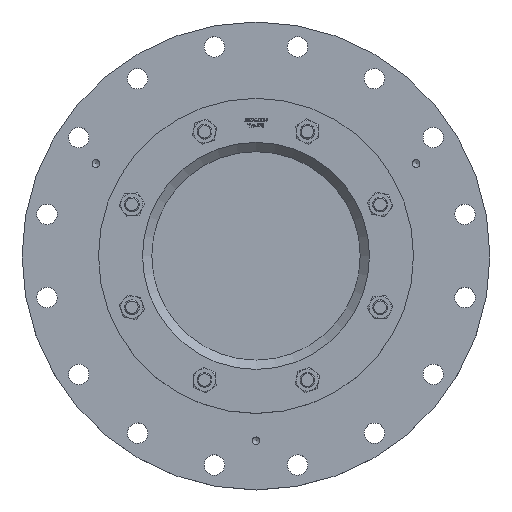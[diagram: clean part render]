
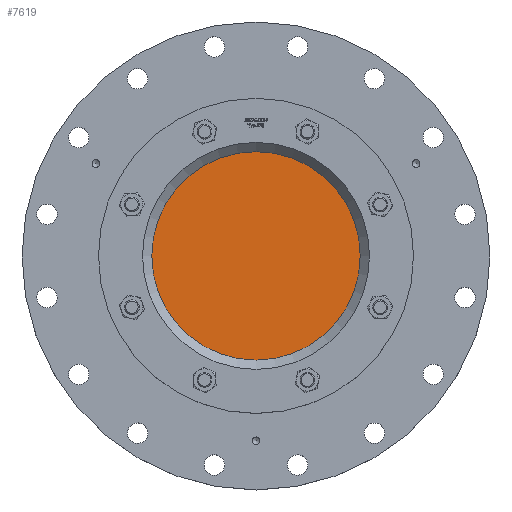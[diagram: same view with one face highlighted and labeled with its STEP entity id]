
A CAD part, top view. The second image highlights one B-rep face of the part: STEP entity #7619.
In plain terms, the highlighted planar face has unit normal (0, 0, 1).
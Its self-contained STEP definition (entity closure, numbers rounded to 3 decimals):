
#2243=FACE_OUTER_BOUND('',#2696,.T.);
#2696=EDGE_LOOP('',(#5262));
#3285=CIRCLE('',#8075,112.5);
#3467=VERTEX_POINT('',#10148);
#4183=EDGE_CURVE('',#3467,#3467,#3285,.T.);
#5262=ORIENTED_EDGE('',*,*,#4183,.F.);
#7420=PLANE('',#8074);
#7619=ADVANCED_FACE('',(#2243),#7420,.F.);
#8074=AXIS2_PLACEMENT_3D('',#10147,#8603,#8604);
#8075=AXIS2_PLACEMENT_3D('',#10149,#8605,#8606);
#8603=DIRECTION('center_axis',(0.,0.,-1.));
#8604=DIRECTION('ref_axis',(-1.,0.,0.));
#8605=DIRECTION('center_axis',(0.,0.,-1.));
#8606=DIRECTION('ref_axis',(-1.,0.,0.));
#10147=CARTESIAN_POINT('Origin',(0.,0.,
81.));
#10148=CARTESIAN_POINT('',(112.5,0.,81.));
#10149=CARTESIAN_POINT('Origin',(0.,0.,
81.));
